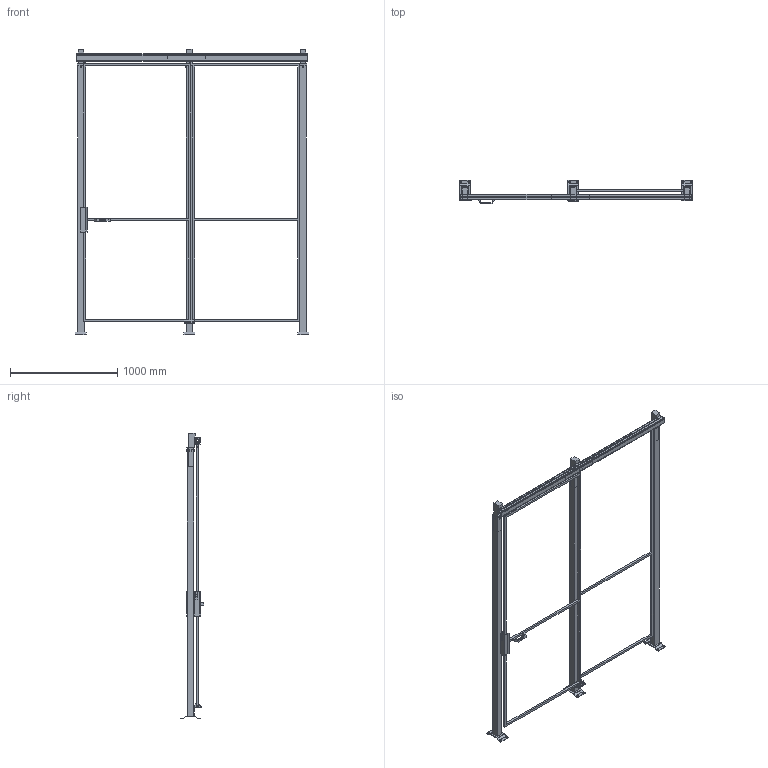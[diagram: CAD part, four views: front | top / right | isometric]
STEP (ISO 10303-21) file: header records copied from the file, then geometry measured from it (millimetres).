
FILE_DESCRIPTION(/* description */ (''),/* implementation_level */ '2;1');
FILE_NAME(/* name */ 'C:\SafeGuarding\ELABORATI\VZOR§POSUVNE_2025-02-05-13-33-20.stp',/* time_stamp */ '2025-02-05T13:33:24+01:00',/* author */ ('admin'),/* organization */ (''),/* preprocessor_version */ 'ST-DEVELOPER v18.1',/* originating_system */ 'AutoCAD Mechanical',/* authorisation */ '');
FILE_SCHEMA (('AUTOMOTIVE_DESIGN { 1 0 10303 214 3 1 1 }'));
Length unit declared in the file: millimetre
Products named in the file (4): Product; VFPA.REPE2010002400; DATI_PORTA; P_VFMA.ME60SDU.2520
Assembly tree (6 placements, depth 2):
  Product
    P_VFMA.ME60SDU.2520  x3
    VFPA.REPE2010002400  x2
    DATI_PORTA
Bounding box: 2170 x 219.95 x 2654 mm (x, y, z)
Volume: 39730416.3 mm3; surface area: 4723268.4 mm2
Topology: 27 solids, 38 shells, 450 faces, 1512 edges, 1425 vertices
Faces by surface type: plane 410, cylinder 38, sphere 2
Full cylindrical faces by diameter (mm): 11 x12, 12 x2, 15 x4, 40 x4
Entity records: 11714 total; most frequent: CARTESIAN_POINT 2483, DIRECTION 1766, ORIENTED_EDGE 1710, EDGE_CURVE 904, LINE 850, VECTOR 850, VERTEX_POINT 644, AXIS2_PLACEMENT_3D 458
